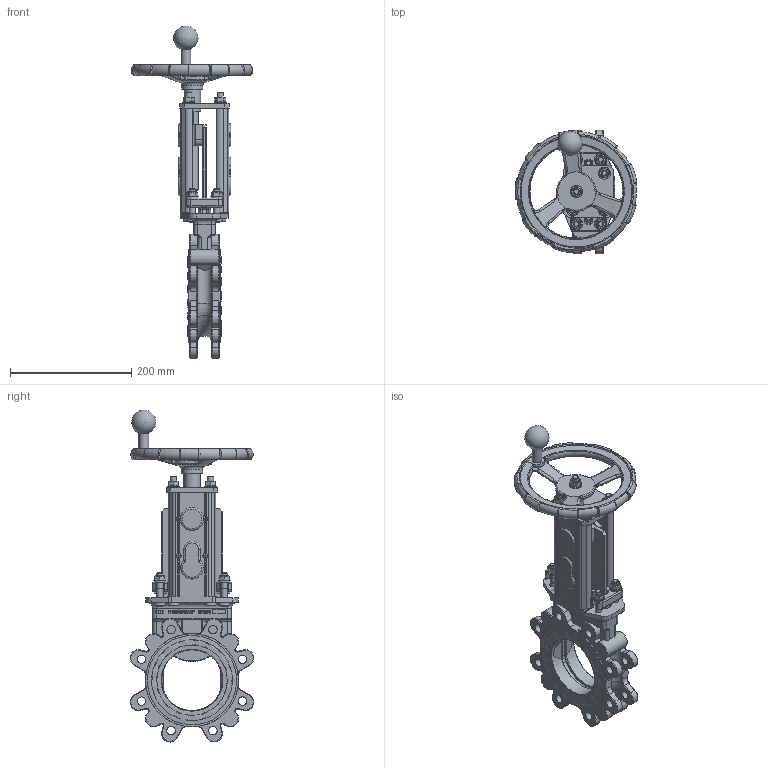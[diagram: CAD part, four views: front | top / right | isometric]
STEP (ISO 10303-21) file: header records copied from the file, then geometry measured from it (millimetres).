
FILE_DESCRIPTION(/* description */ (''),/* implementation_level */ '2;1');
FILE_NAME(/* name */ 'G:\KONSTRUK\3-D Block för kund\WB SERIE\WB14-E\HAND WHEEL\100\WB14E-DN100-PN10-HW_Shrinkwrap_1.stp',/* time_stamp */ '2019-02-21T09:30:40+01:00',/* author */ ('MATZET'),/* organization */ (''),/* preprocessor_version */ 'ST-DEVELOPER v17',/* originating_system */ 'Autodesk Inventor 2019',/* authorisation */ '');
FILE_SCHEMA (('CONFIG_CONTROL_DESIGN'));
Length unit declared in the file: millimetre
Products named in the file (1): WB14E-DN100-PN10-HW_Shrinkwrap_1
Bounding box: 200.8 x 203.52 x 546.61 mm (x, y, z)
Volume: 1817933.5 mm3; surface area: 510573.9 mm2
Topology: 1 solids, 1 shells, 2408 faces, 6415 edges, 4072 vertices
Faces by surface type: plane 984, cylinder 533, bspline 469, torus 247, cone 150, sphere 25
Full cylindrical faces by diameter (mm): 4.2 x12, 6 x2, 6.75 x2, 8.376 x4, 8.5 x1, 9 x2, 10 x25, 10.5 x8, 11 x4, 13.835 x16, 15 x1, 16 x1, 20 x10, 24 x2, 27 x2, 28 x2, 35 x1, 100 x2, 102 x2, 147 x2, 153 x2, 185 x2
Entity records: 111572 total; most frequent: CARTESIAN_POINT 53862, ORIENTED_EDGE 12714, DIRECTION 10799, EDGE_CURVE 6357, VERTEX_POINT 4072, AXIS2_PLACEMENT_3D 3893, LINE 3013, VECTOR 3013
